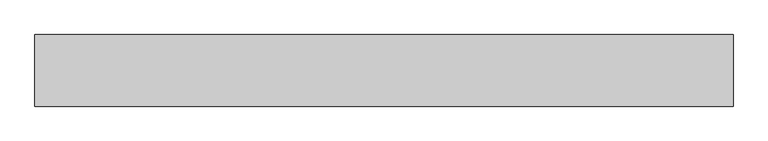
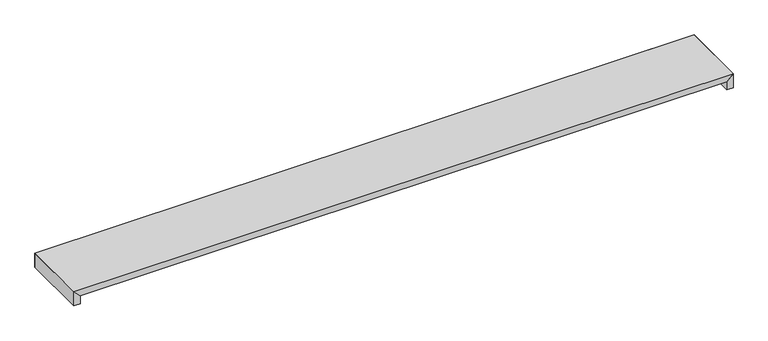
"""IFC4 building model written with IfcOpenShell, lengths in millimetres: proxy geometry, CCN^APOGEE_L3 WALL HUNG-78 WOOD CAP PARTS SOLID."""

from ifc_helpers import new_model, si_unit, origin, place, context, project, spatial, faceted_brep, source, transform, mapped, element, save


def generic_models_a1561ee6(model_context):
    return source(origin(), model_context, "Body", "Brep", [
        faceted_brep([(19.05, 0.0, 0.0), (0.0, 0.0, 19.05), (0.0, 203.2, 19.05), (19.05, 184.15, 0.0), (1962.15, 0.0, 0.0), (1981.2, 0.0, 19.05), (1962.15, 184.15, 0.0), (1981.2, 203.2, 19.05)], [[[0, 1, 2, 3]], [[1, 0, 4, 5]], [[0, 3, 6, 4]], [[6, 7, 5, 4]], [[3, 2, 7, 6]], [[5, 7, 2, 1]]]),
        faceted_brep([(1981.2, 203.2, -25.4), (1981.2, 203.2, 19.05), (1981.2, 0.0, 19.05), (1981.2, 0.0, -25.4), (1962.15, 184.15, 0.0), (1962.15, 0.0, 0.0), (1962.15, 184.15, -25.4), (1962.15, 0.0, -25.4)], [[[0, 1, 2, 3]], [[1, 4, 5, 2]], [[4, 6, 7, 5]], [[6, 0, 3, 7]], [[3, 2, 5, 7]], [[4, 1, 0, 6]]]),
        faceted_brep([(19.05, 184.15, -25.4), (19.05, 184.15, 0.0), (19.05, 0.0, 0.0), (19.05, 0.0, -25.4), (0.0, 203.2, 19.05), (0.0, 0.0, 19.05), (0.0, 203.2, -25.4), (0.0, 0.0, -25.4)], [[[0, 1, 2, 3]], [[1, 4, 5, 2]], [[4, 6, 7, 5]], [[6, 0, 3, 7]], [[3, 2, 5, 7]], [[4, 1, 0, 6]]]),
        faceted_brep([(0.0, 203.2, -25.4), (19.05, 184.15, -25.4), (19.05, 184.15, 0.0), (0.0, 203.2, 19.05), (1962.15, 184.15, -25.4), (1962.15, 184.15, 0.0), (1981.2, 203.2, -25.4), (1981.2, 203.2, 19.05)], [[[0, 1, 2, 3]], [[2, 1, 4, 5]], [[1, 0, 6, 4]], [[4, 6, 7, 5]], [[0, 3, 7, 6]], [[3, 2, 5, 7]]]),
    ])


if __name__ == "__main__":
    model = new_model("IFC4")
    model_context = context("Model", 3, world=origin())
    ifc_project = project(units=[si_unit("LENGTHUNIT", "METRE", prefix="MILLI")], contexts=[model_context])
    site = spatial("IfcSite", under=ifc_project)
    building = spatial("IfcBuilding", under=site)
    placement = place(None, origin())
    generic_models_shape = generic_models_a1561ee6(model_context)
    element("IfcBuildingElementProxy", 1, Name="CCN^APOGEE_L3 WALL HUNG-78 WOOD CAP PARTS SOLID", ObjectType="CCN^APOGEE_L3 WALL HUNG-78 WOOD CAP PARTS SOLID", at=placement, inside=building, context=model_context, shape_type="MappedRepresentation", body=[
        mapped(generic_models_shape, transform((0.0, 0.0, 0.0), x_axis=(1.0, 0.0, 0.0), y_axis=(0.0, 1.0, 0.0), z_axis=(0.0, 0.0, 1.0))),
    ])
    save(model, "model.ifc")
